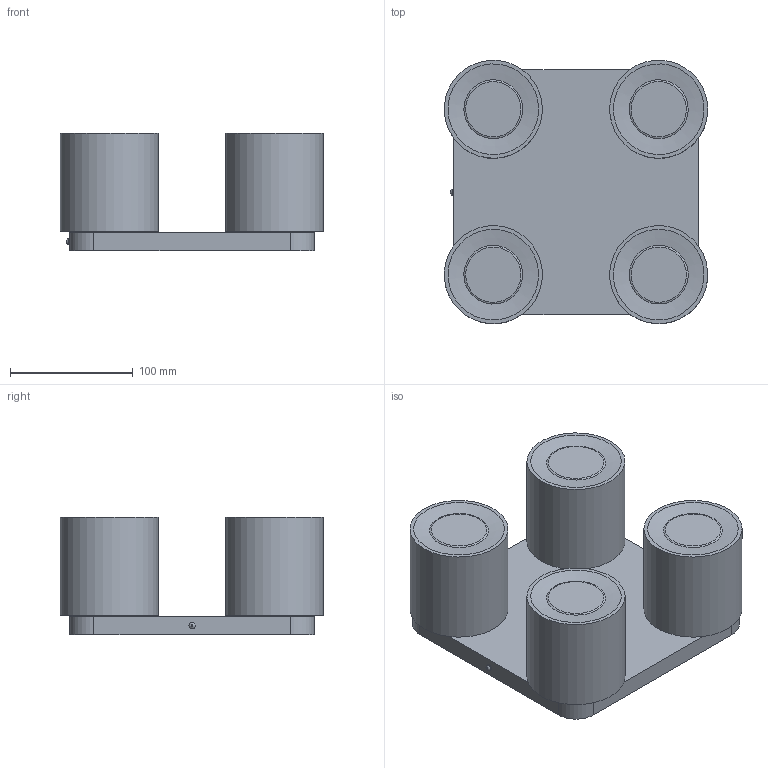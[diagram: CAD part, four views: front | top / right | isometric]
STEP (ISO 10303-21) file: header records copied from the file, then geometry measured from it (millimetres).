
FILE_DESCRIPTION(/* description */ (''),/* implementation_level */ '2;1');
FILE_NAME(/* name */ 'D:\TK Lighting\2021\Vico\6511\Vico 6511.stp',/* time_stamp */ '2021-02-01T21:21:33+01:00',/* author */ ('Admin'),/* organization */ (''),/* preprocessor_version */ 'ST-DEVELOPER v16.5',/* originating_system */ 'Autodesk Inventor 2017',/* authorisation */ '');
FILE_SCHEMA (('AUTOMOTIVE_DESIGN { 1 0 10303 214 3 1 1 }'));
Products named in the file (3): Vico 6511; Zawiesie 6511; Klosz
Assembly tree (5 placements, depth 2):
  Vico 6511
    Zawiesie 6511
    Klosz  x4
Bounding box: 214.87 x 214.84 x 96.1 mm (x, y, z)
Volume: 839311.3 mm3; surface area: 321766 mm2
Topology: 5 solids, 9 shells, 85 faces, 135 edges, 89 vertices
Faces by surface type: plane 43, cylinder 29, cone 8, torus 4, bspline 1
Full cylindrical faces by diameter (mm): 5 x1, 10 x8, 48 x4, 52 x4, 76 x4, 80 x4
Entity records: 1027 total; most frequent: DIRECTION 174, CARTESIAN_POINT 168, ORIENTED_EDGE 104, AXIS2_PLACEMENT_3D 79, EDGE_LOOP 59, EDGE_CURVE 52, VERTEX_POINT 43, STYLED_ITEM 39
